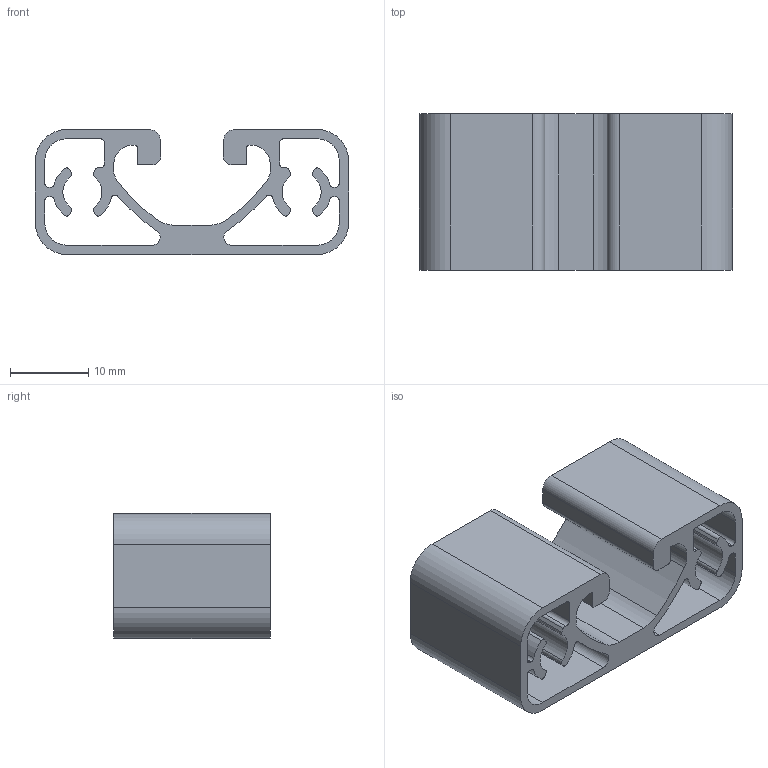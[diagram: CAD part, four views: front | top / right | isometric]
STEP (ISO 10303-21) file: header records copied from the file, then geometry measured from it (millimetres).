
FILE_DESCRIPTION(('STEP AP214'),'1');
FILE_NAME('cctmp_372603D4-E4CD-4791-A1D7-AAB08FA9A205_2023_04_25_13_47_00_0113_34588..stp','2023-04-25T11:47:00',('item Industrietechnik GmbH'),('CADClick - www.CADClick.com'),'Spatial InterOp 3D',' ','unknown authorization');
FILE_SCHEMA(('AUTOMOTIVE_DESIGN'));
Length unit declared in the file: millimetre
Products named in the file (2): item_7000001_Profile 8 40x16 E_L=20; item_7000001_Profile 8 40x16 E_L=20_1
Assembly tree (1 placements, depth 2):
  item_7000001_Profile 8 40x16 E_L=20
    item_7000001_Profile 8 40x16 E_L=20_1
Bounding box: 40 x 20 x 16 mm (x, y, z)
Volume: 4573.8 mm3; surface area: 6335.8 mm2
Topology: 1 solids, 1 shells, 108 faces, 318 edges, 212 vertices
Faces by surface type: cylinder 68, plane 40
Entity records: 4581 total; most frequent: DIRECTION 674, CARTESIAN_POINT 640, ORIENTED_EDGE 636, EDGE_CURVE 318, AXIS2_PLACEMENT_3D 246, VERTEX_POINT 212, LINE 182, VECTOR 182
